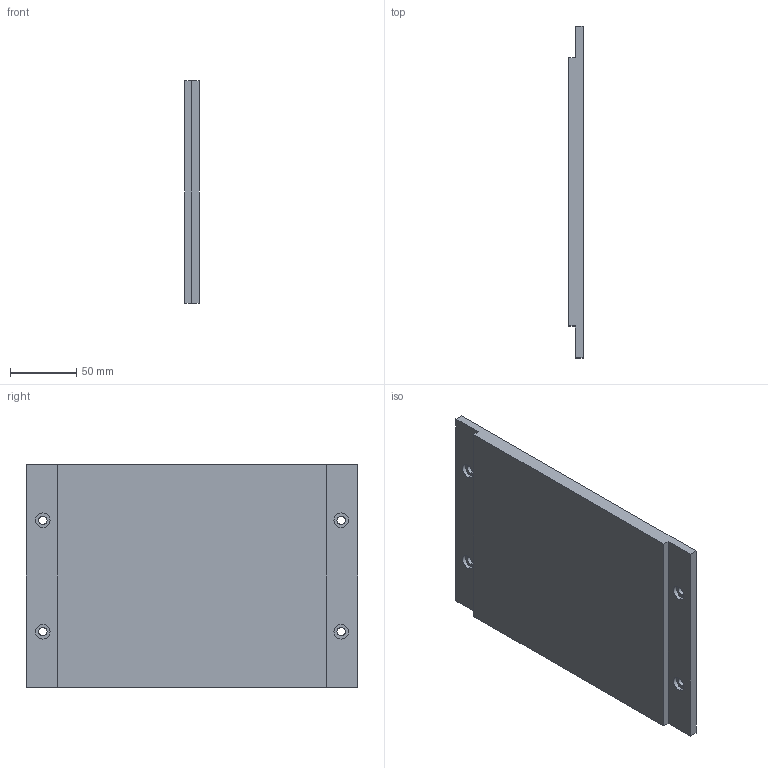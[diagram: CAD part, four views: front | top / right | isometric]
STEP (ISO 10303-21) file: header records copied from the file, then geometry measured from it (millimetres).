
FILE_DESCRIPTION (( 'STEP AP214' ), '1' );
FILE_NAME ('1-WKM200-168.STEP', '2025-09-05T12:15:22', ( '' ), ( '' ), 'SwSTEP 2.0', 'SolidWorks 2016', '' );
FILE_SCHEMA (( 'AUTOMOTIVE_DESIGN' ));
Length unit declared in the file: millimetre
Products named in the file (1): 1-WKM200-168
Bounding box: 10.8 x 250 x 168 mm (x, y, z)
Volume: 413608.3 mm3; surface area: 92969.5 mm2
Topology: 1 solids, 1 shells, 30 faces, 72 edges, 48 vertices
Faces by surface type: cylinder 16, plane 14
Entity records: 938 total; most frequent: DIRECTION 166, CARTESIAN_POINT 151, ORIENTED_EDGE 144, EDGE_CURVE 72, AXIS2_PLACEMENT_3D 63, VERTEX_POINT 48, EDGE_LOOP 42, VECTOR 40
